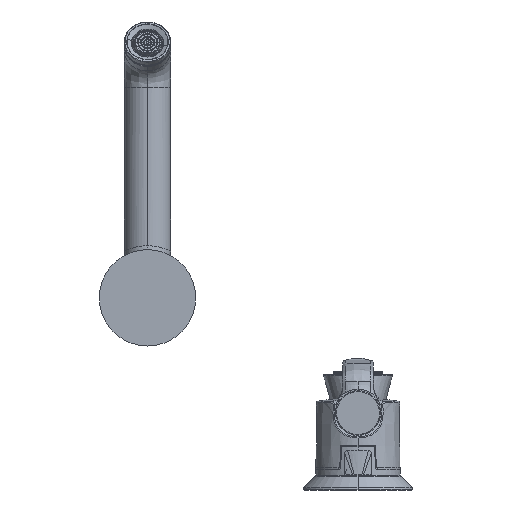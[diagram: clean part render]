
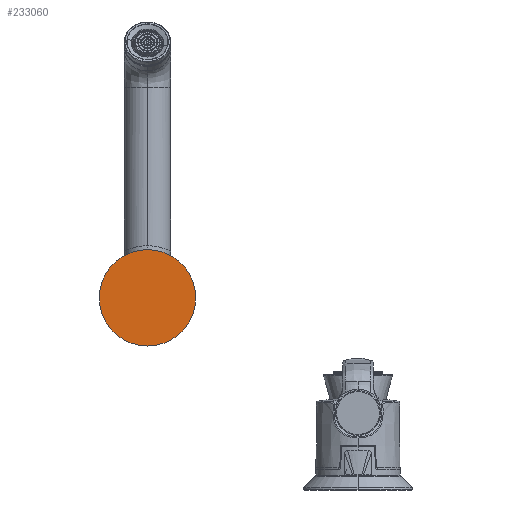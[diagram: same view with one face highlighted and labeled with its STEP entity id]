
A CAD part, front view. The second image highlights one B-rep face of the part: STEP entity #233060.
In plain terms, the highlighted planar face has unit normal (0, -1, 0).
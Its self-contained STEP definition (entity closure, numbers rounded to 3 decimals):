
#3176 = DIRECTION ( 'NONE',  ( -1., 0., 0. ) ) ;
#23099 = DIRECTION ( 'NONE',  ( 1., 0., 0. ) ) ;
#66872 = DIRECTION ( 'NONE',  ( 0., 1., 0. ) ) ;
#70601 = VERTEX_POINT ( 'NONE', #234552 ) ;
#124099 = FACE_OUTER_BOUND ( 'NONE', #239093, .T. ) ;
#129974 = DIRECTION ( 'NONE',  ( 0., 1., 0. ) ) ;
#150198 = EDGE_CURVE ( 'NONE', #197743, #70601, #171806, .T. ) ;
#154058 = CARTESIAN_POINT ( 'NONE',  ( 0., -5., 0. ) ) ;
#155001 = DIRECTION ( 'NONE',  ( 0., 1., 0. ) ) ;
#171806 = CIRCLE ( 'NONE', #213458, 25. ) ;
#171897 = AXIS2_PLACEMENT_3D ( 'NONE', #236719, #129974, #23099 ) ;
#172132 = PLANE ( 'NONE',  #171897 ) ;
#174426 = ORIENTED_EDGE ( 'NONE', *, *, #150198, .F. ) ;
#197743 = VERTEX_POINT ( 'NONE', #251172 ) ;
#201538 = ORIENTED_EDGE ( 'NONE', *, *, #234067, .F. ) ;
#213458 = AXIS2_PLACEMENT_3D ( 'NONE', #242083, #155001, #3176 ) ;
#214993 = DIRECTION ( 'NONE',  ( -1., 0., 0. ) ) ;
#233060 = ADVANCED_FACE ( 'NONE', ( #124099 ), #172132, .F. ) ;
#234067 = EDGE_CURVE ( 'NONE', #70601, #197743, #274686, .T. ) ;
#234552 = CARTESIAN_POINT ( 'NONE',  ( 25., -5., 0. ) ) ;
#236719 = CARTESIAN_POINT ( 'NONE',  ( 25., -5., 0. ) ) ;
#239093 = EDGE_LOOP ( 'NONE', ( #174426, #201538 ) ) ;
#242083 = CARTESIAN_POINT ( 'NONE',  ( 0., -5., 0. ) ) ;
#251172 = CARTESIAN_POINT ( 'NONE',  ( -25., -5., 0. ) ) ;
#252755 = AXIS2_PLACEMENT_3D ( 'NONE', #154058, #66872, #214993 ) ;
#274686 = CIRCLE ( 'NONE', #252755, 25. ) ;
